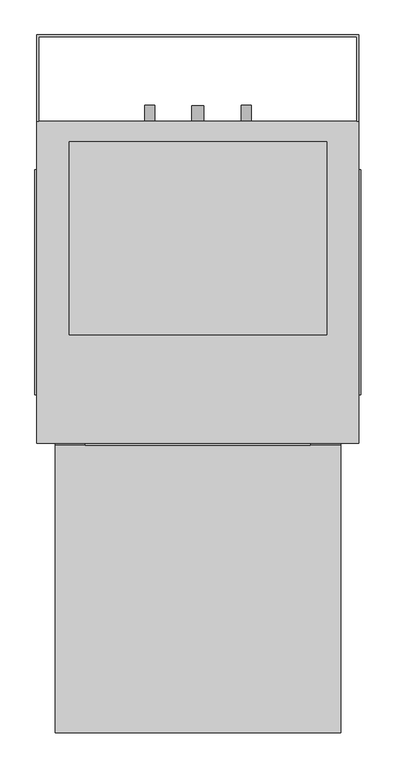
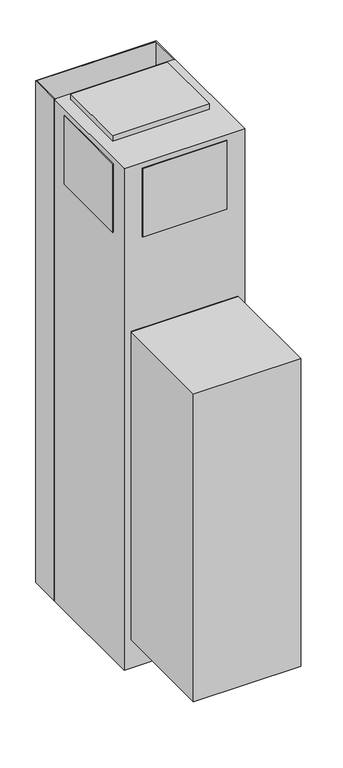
"""IFC4 building model written with IfcOpenShell, lengths in millimetres: proxy geometry, Exposed_Modular_Fan_Coil_Unit_-_42SHA_-_CARRIER_-_2-Pipe_Cool-EHeat_-_NoRisers_2022 : Size 06 - 277v/60Hz/1Ph - 4 Row 6.0kW."""

from ifc_helpers import new_model, si_unit, point, frame, frame_2d, origin, origin_with_axes, place, context, project, spatial, polyline, circle_curve, trimmed, segment, composite_curve, outline, extrude, source, transform, mapped, element, save


def mechanical_equipment_737f0095(model_context):
    return source(origin(), model_context, "Body", "SweptSolid", [
        extrude(outline(polyline([(631.825, -266.7), (631.825, -720.725), (180.975, -720.725), (180.975, -266.7), (631.825, -266.7)])), frame((0.0, 0.0, 127.0), z_axis=(0.0, 0.0, 1.0), x_axis=(1.0, 0.0, 0.0)), (0.0, 0.0, 1.0), 1371.6),
        extrude(outline(polyline([(152.4, 381.0), (660.4, 381.0), (660.4, 244.475), (657.225, 244.475), (657.225, 377.825), (155.575, 377.825), (155.575, 244.475), (152.4, 244.475), (152.4, 381.0)])), origin_with_axes(), (0.0, 0.0, 1.0), 2235.2),
        extrude(outline(composite_curve([segment(trimmed(circle_curve(frame_2d((990.6, 482.6)), 7.9375), [point((990.6, 490.5375))], [point((990.6, 474.6625))], False, "CARTESIAN"), True, "CONTINUOUS"), segment(trimmed(circle_curve(frame_2d((990.6, 482.6)), 7.9375), [point((990.6, 474.6625))], [point((990.6, 490.5375))], False, "CARTESIAN"), True, "CONTINUOUS")], self_intersect=False)), frame((0.0, 244.475, 0.0), z_axis=(0.0, 1.0, 0.0), x_axis=(0.0, 0.0, 1.0)), (0.0, 0.0, 1.0), 25.4),
        extrude(outline(composite_curve([segment(trimmed(circle_curve(frame_2d((990.6, 330.2)), 7.9375), [point((990.6, 338.1375))], [point((990.6, 322.2625))], False, "CARTESIAN"), True, "CONTINUOUS"), segment(trimmed(circle_curve(frame_2d((990.6, 330.2)), 7.9375), [point((990.6, 322.2625))], [point((990.6, 338.1375))], False, "CARTESIAN"), True, "CONTINUOUS")], self_intersect=False)), frame((0.0, 244.475, 0.0), z_axis=(0.0, 1.0, 0.0), x_axis=(0.0, 0.0, 1.0)), (0.0, 0.0, 1.0), 25.4),
        extrude(outline(composite_curve([segment(trimmed(circle_curve(frame_2d((127.0, 406.4)), 9.525), [point((127.0, 415.925))], [point((127.0, 396.875))], False, "CARTESIAN"), True, "CONTINUOUS"), segment(trimmed(circle_curve(frame_2d((127.0, 406.4)), 9.525), [point((127.0, 396.875))], [point((127.0, 415.925))], False, "CARTESIAN"), True, "CONTINUOUS")], self_intersect=False)), frame((0.0, 244.475, 0.0), z_axis=(0.0, 1.0, 0.0), x_axis=(0.0, 0.0, 1.0)), (0.0, 0.0, 1.0), 25.4),
        extrude(outline(polyline([(631.825, -266.7), (180.975, -266.7), (180.975, -263.525), (631.825, -263.525), (631.825, -266.7)])), frame((0.0, 0.0, 127.0), z_axis=(0.0, 0.0, 1.0), x_axis=(1.0, 0.0, 0.0)), (0.0, 0.0, 1.0), 1371.6),
        extrude(outline(polyline([(663.575, 168.275), (663.575, -187.325), (660.4, -187.325), (660.4, 168.275), (663.575, 168.275)])), frame((0.0, 0.0, 1905.0), z_axis=(0.0, 0.0, 1.0), x_axis=(1.0, 0.0, 0.0)), (0.0, 0.0, 1.0), 304.8),
        extrude(outline(polyline([(149.225, -187.325), (149.225, 168.275), (152.4, 168.275), (152.4, -187.325), (149.225, -187.325)])), frame((0.0, 0.0, 1905.0), z_axis=(0.0, 0.0, 1.0), x_axis=(1.0, 0.0, 0.0)), (0.0, 0.0, 1.0), 304.8),
        extrude(outline(polyline([(584.2, -266.7), (228.6, -266.7), (228.6, -263.525), (584.2, -263.525), (584.2, -266.7)])), frame((0.0, 0.0, 1905.0), z_axis=(0.0, 0.0, 1.0), x_axis=(1.0, 0.0, 0.0)), (0.0, 0.0, 1.0), 304.8),
        extrude(outline(polyline([(609.6, 212.725), (609.6, -92.075), (203.2, -92.075), (203.2, 212.725), (609.6, 212.725)])), frame((0.0, 0.0, 2235.2), z_axis=(0.0, 0.0, 1.0), x_axis=(1.0, 0.0, 0.0)), (0.0, 0.0, 1.0), 25.4),
        extrude(outline(polyline([(660.4, 244.475), (660.4, -263.525), (152.4, -263.525), (152.4, 244.475), (660.4, 244.475)])), origin_with_axes(), (0.0, 0.0, 1.0), 2235.2),
    ])


if __name__ == "__main__":
    model = new_model("IFC4")
    model_context = context("Model", 3, world=origin())
    ifc_project = project(units=[si_unit("LENGTHUNIT", "METRE", prefix="MILLI")], contexts=[model_context])
    site = spatial("IfcSite", under=ifc_project)
    building = spatial("IfcBuilding", under=site)
    placement = place(None, origin())
    mechanical_equipment_shape = mechanical_equipment_737f0095(model_context)
    element("IfcBuildingElementProxy", 1, Name="Exposed_Modular_Fan_Coil_Unit_-_42SHA_-_CARRIER_-_2-Pipe_Cool-EHeat_-_NoRisers_2022 : Size 06 - 277v/60Hz/1Ph - 4 Row 6.0kW", ObjectType="Exposed_Modular_Fan_Coil_Unit_-_42SHA_-_CARRIER_-_2-Pipe_Cool-EHeat_-_NoRisers_2022 : Size 06 - 277v/60Hz/1Ph - 4 Row 6.0kW", at=placement, inside=building, context=model_context, shape_type="MappedRepresentation", body=[
        mapped(mechanical_equipment_shape, transform((0.0, 0.0, 0.0), x_axis=(1.0, 0.0, 0.0), y_axis=(0.0, 1.0, 0.0), z_axis=(0.0, 0.0, 1.0))),
    ])
    save(model, "model.ifc")
